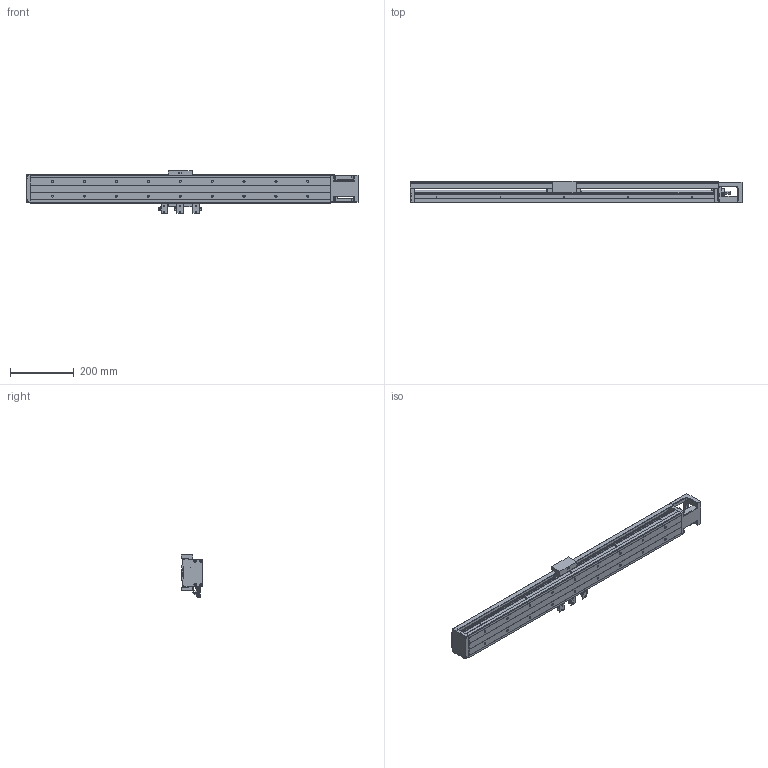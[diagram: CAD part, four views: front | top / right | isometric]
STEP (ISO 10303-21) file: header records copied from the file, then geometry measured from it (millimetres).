
FILE_DESCRIPTION (( 'STEP AP203' ), '1' );
FILE_NAME ('HKK86D20C-940A1-F0CS1.stp', '2021-11-29T08:03:31', ( '' ), ( '' ), 'SwSTEP 2.0', 'SolidWorks 2018', '' );
FILE_SCHEMA (( 'CONFIG_CONTROL_DESIGN' ));
Products named in the file (1): HKK86D20C-940A1-F0CS1
Bounding box: 1040 x 68 x 132.5 mm (x, y, z)
Volume: 2396652.1 mm3; surface area: 686354.5 mm2
Topology: 6 solids, 21 shells, 1488 faces, 3731 edges, 2352 vertices
Faces by surface type: plane 806, cylinder 491, cone 142, torus 32, sphere 9, bspline 8
Entity records: 44657 total; most frequent: CARTESIAN_POINT 9060, DIRECTION 7375, ORIENTED_EDGE 7322, EDGE_CURVE 3661, AXIS2_PLACEMENT_3D 2482, VECTOR 2411, LINE 2411, VERTEX_POINT 2348
